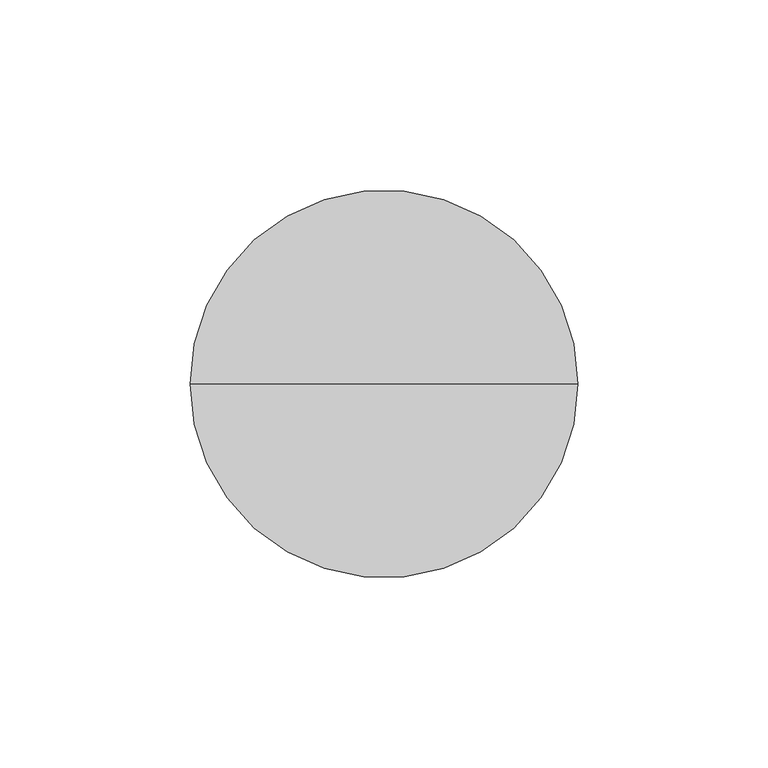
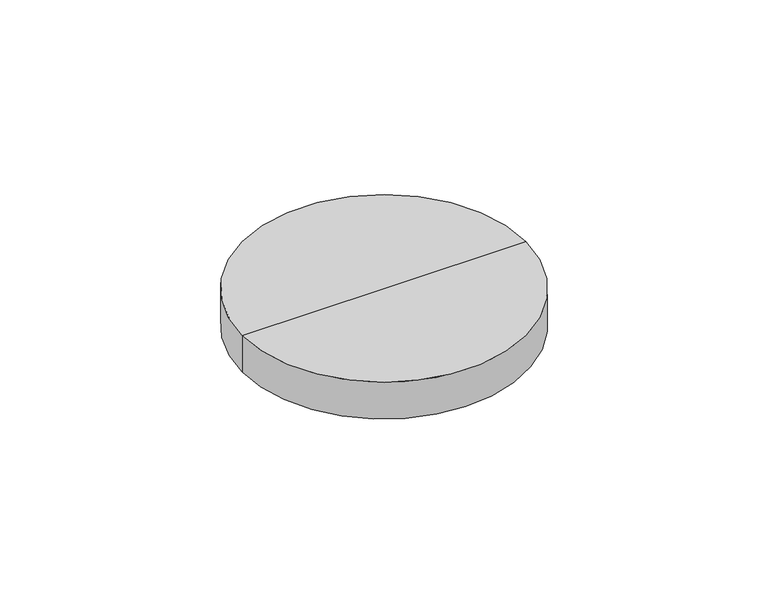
"""IFC4 building model written with IfcOpenShell, lengths in millimetres: alarm geometry, А2ДПИ_база извещателя_тип модель на грани : А2ДПИ_база извещателя_тип модель на грани."""

from ifc_helpers import new_model, si_unit, frame, origin, place, context, project, spatial, circle_curve, source, transform, mapped, element, save
from ifc_brep_helpers import plane_surface, cylinder_surface, advanced_brep


def alarm_039fa333(model_context):
    return source(origin(), model_context, "Body", "AdvancedBrep", [
        advanced_brep(
        [(0.0, 0.0, 14.0), (51.0, 0.0, 14.0), (-51.0, 0.0, 14.0), (-51.0, 0.0, 0.0), (51.0, 0.0, 0.0), (0.0, 0.0, 0.0)],
        [
            (0, 1),
            (1, 2, circle_curve(frame((0.0, 0.0, 14.0), z_axis=(0.0, 0.0, 1.0), x_axis=(1.0, 0.0, 0.0)), 51.0)),
            (2, 0),
            (2, 1, circle_curve(frame((0.0, 0.0, 14.0), z_axis=(0.0, 0.0, 1.0), x_axis=(1.0, 0.0, 0.0)), 51.0)),
            (3, 4, circle_curve(frame((0.0, 0.0, 0.0), z_axis=(0.0, 0.0, -1.0), x_axis=(1.0, 0.0, 0.0)), 51.0)),
            (4, 5),
            (5, 3),
            (4, 3, circle_curve(frame((0.0, 0.0, 0.0), z_axis=(0.0, 0.0, -1.0), x_axis=(1.0, 0.0, 0.0)), 51.0)),
            (1, 4),
            (3, 2),
        ],
        [
            plane_surface(frame((0.0, 0.0, 14.0), z_axis=(0.0, 0.0, 1.0), x_axis=(1.0, 0.0, 0.0))),
            plane_surface(frame((0.0, 0.0, 0.0), z_axis=(0.0, 0.0, -1.0), x_axis=(1.0, 0.0, 0.0))),
            cylinder_surface(frame((0.0, 0.0, 46.0376067), z_axis=(0.0, 0.0, 1.0), x_axis=(1.0, 0.0, 0.0)), 51.0),
        ],
        [
            (0, [[1, 2, 3]]),
            (0, [[-3, 4, -1]]),
            (1, [[5, 6, 7]]),
            (1, [[8, -7, -6]]),
            (2, [[-2, 9, -5, 10]]),
            (2, [[-4, -10, -8, -9]]),
        ],
    ),
    ])


if __name__ == "__main__":
    model = new_model("IFC4")
    model_context = context("Model", 3, world=origin())
    ifc_project = project(units=[si_unit("LENGTHUNIT", "METRE", prefix="MILLI")], contexts=[model_context])
    site = spatial("IfcSite", under=ifc_project)
    building = spatial("IfcBuilding", under=site)
    placement = place(None, origin())
    alarm_shape = alarm_039fa333(model_context)
    element("IfcAlarm", 1, ObjectType="А2ДПИ_база извещателя_тип модель на грани : А2ДПИ_база извещателя_тип модель на грани", at=placement, inside=building, context=model_context, shape_type="MappedRepresentation", body=[
        mapped(alarm_shape, transform((0.0, 0.0, 0.0), x_axis=(1.0, 0.0, 0.0), y_axis=(0.0, 1.0, 0.0), z_axis=(0.0, 0.0, 1.0))),
    ])
    save(model, "model.ifc")
